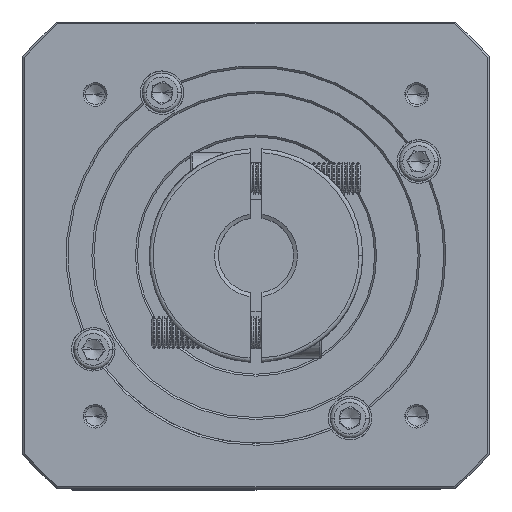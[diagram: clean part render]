
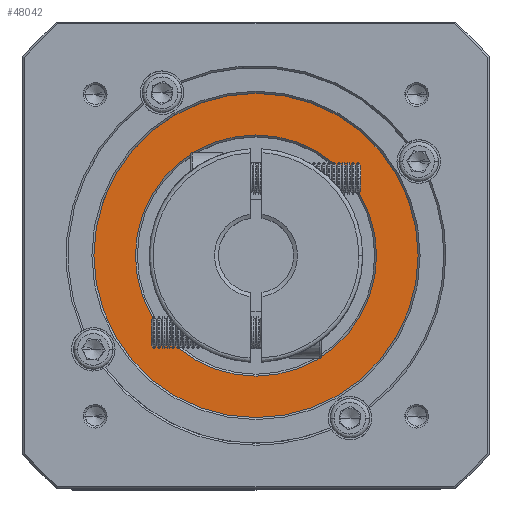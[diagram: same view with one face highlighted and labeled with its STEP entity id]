
A CAD part, top view. The second image highlights one B-rep face of the part: STEP entity #48042.
In plain terms, the highlighted planar face has unit normal (0, 0, 1).
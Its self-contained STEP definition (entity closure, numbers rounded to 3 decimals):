
#146 = ORIENTED_EDGE ( 'NONE', *, *, #23026, .T. ) ;
#709 = EDGE_CURVE ( 'NONE', #109658, #29702, #97796, .T. ) ;
#3013 = CIRCLE ( 'NONE', #69202, 41. ) ;
#3805 = DIRECTION ( 'NONE',  ( 1., 0., 0. ) ) ;
#8009 = CARTESIAN_POINT ( 'NONE',  ( -88.695, 11.107, 122.5 ) ) ;
#9356 = CARTESIAN_POINT ( 'NONE',  ( -99.195, 11.107, 122.5 ) ) ;
#9885 = ORIENTED_EDGE ( 'NONE', *, *, #65407, .T. ) ;
#11533 = CIRCLE ( 'NONE', #12054, 30.5 ) ;
#12054 = AXIS2_PLACEMENT_3D ( 'NONE', #28299, #73534, #38458 ) ;
#18423 = PLANE ( 'NONE',  #90977 ) ;
#22810 = CARTESIAN_POINT ( 'NONE',  ( -58.195, 11.107, 122.5 ) ) ;
#23026 = EDGE_CURVE ( 'NONE', #66334, #60205, #98313, .T. ) ;
#23545 = DIRECTION ( 'NONE',  ( 1., 0., 0. ) ) ;
#26188 = DIRECTION ( 'NONE',  ( 0., 0., -1. ) ) ;
#28299 = CARTESIAN_POINT ( 'NONE',  ( -58.195, 11.107, 122.5 ) ) ;
#29702 = VERTEX_POINT ( 'NONE', #79071 ) ;
#30361 = EDGE_CURVE ( 'NONE', #29702, #109658, #11533, .T. ) ;
#38458 = DIRECTION ( 'NONE',  ( 1., 0., 0. ) ) ;
#39977 = DIRECTION ( 'NONE',  ( 0., 0., 1. ) ) ;
#40703 = DIRECTION ( 'NONE',  ( 0., 0., 1. ) ) ;
#43212 = AXIS2_PLACEMENT_3D ( 'NONE', #61305, #26188, #79975 ) ;
#44236 = FACE_BOUND ( 'NONE', #80417, .T. ) ;
#47236 = ORIENTED_EDGE ( 'NONE', *, *, #30361, .T. ) ;
#48042 = ADVANCED_FACE ( 'NONE', ( #73515, #44236 ), #18423, .T. ) ;
#55829 = DIRECTION ( 'NONE',  ( 0., 0., 1. ) ) ;
#60205 = VERTEX_POINT ( 'NONE', #73567 ) ;
#61198 = EDGE_LOOP ( 'NONE', ( #9885, #146 ) ) ;
#61305 = CARTESIAN_POINT ( 'NONE',  ( -58.195, 11.107, 122.5 ) ) ;
#65407 = EDGE_CURVE ( 'NONE', #60205, #66334, #3013, .T. ) ;
#66334 = VERTEX_POINT ( 'NONE', #9356 ) ;
#68004 = CARTESIAN_POINT ( 'NONE',  ( -58.195, 11.107, 122.5 ) ) ;
#69202 = AXIS2_PLACEMENT_3D ( 'NONE', #68004, #40703, #23545 ) ;
#70329 = ORIENTED_EDGE ( 'NONE', *, *, #709, .T. ) ;
#73515 = FACE_OUTER_BOUND ( 'NONE', #61198, .T. ) ;
#73534 = DIRECTION ( 'NONE',  ( 0., 0., -1. ) ) ;
#73567 = CARTESIAN_POINT ( 'NONE',  ( -17.195, 11.107, 122.5 ) ) ;
#74741 = AXIS2_PLACEMENT_3D ( 'NONE', #22810, #39977, #3805 ) ;
#79071 = CARTESIAN_POINT ( 'NONE',  ( -27.695, 11.107, 122.5 ) ) ;
#79975 = DIRECTION ( 'NONE',  ( 1., 0., 0. ) ) ;
#80417 = EDGE_LOOP ( 'NONE', ( #47236, #70329 ) ) ;
#82294 = DIRECTION ( 'NONE',  ( 1., 0., 0. ) ) ;
#90977 = AXIS2_PLACEMENT_3D ( 'NONE', #100629, #55829, #82294 ) ;
#97796 = CIRCLE ( 'NONE', #43212, 30.5 ) ;
#98313 = CIRCLE ( 'NONE', #74741, 41. ) ;
#100629 = CARTESIAN_POINT ( 'NONE',  ( -58.195, 11.107, 122.5 ) ) ;
#109658 = VERTEX_POINT ( 'NONE', #8009 ) ;
